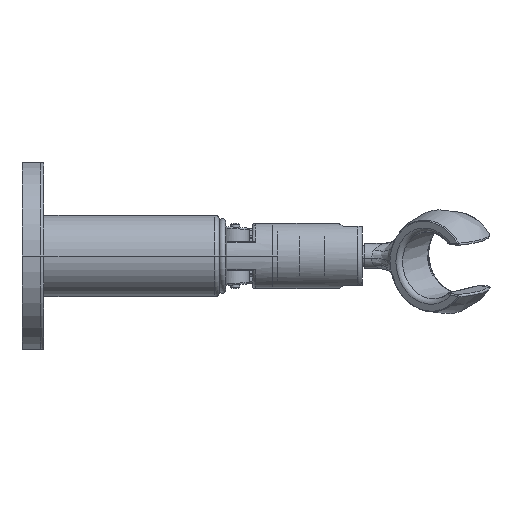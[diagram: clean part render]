
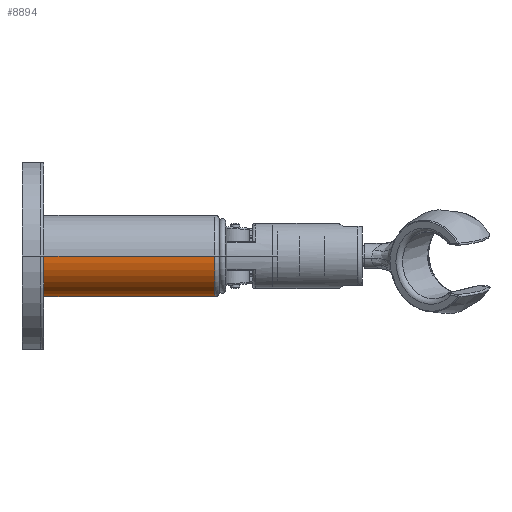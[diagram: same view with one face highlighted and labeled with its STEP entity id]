
A CAD part, front view. The second image highlights one B-rep face of the part: STEP entity #8894.
In plain terms, the highlighted cylindrical face has radius 13 mm (diameter 26 mm), a partial arc.
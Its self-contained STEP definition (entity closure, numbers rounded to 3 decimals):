
#2583=CARTESIAN_POINT('',(-38.5,0.,0.));
#2584=DIRECTION('',(-1.,0.,0.));
#2585=DIRECTION('',(0.,1.,0.));
#2586=AXIS2_PLACEMENT_3D('',#2583,#2584,#2585);
#2588=CARTESIAN_POINT('',(16.,0.,0.));
#2589=DIRECTION('',(-1.,0.,0.));
#2590=DIRECTION('',(0.,1.,0.));
#2591=AXIS2_PLACEMENT_3D('',#2588,#2589,#2590);
#2593=CARTESIAN_POINT('',(9.,13.,0.));
#2594=CARTESIAN_POINT('',(9.,13.,-0.147));
#2595=CARTESIAN_POINT('',(8.993,12.995,
-0.441));
#2596=CARTESIAN_POINT('',(8.96,12.972,
-0.884));
#2597=CARTESIAN_POINT('',(8.905,12.935,-1.326));
#2598=CARTESIAN_POINT('',(8.828,12.882,-1.768));
#2599=CARTESIAN_POINT('',(8.728,12.813,-2.21));
#2600=CARTESIAN_POINT('',(8.605,12.73,-2.649));
#2601=CARTESIAN_POINT('',(8.458,12.631,-3.088));
#2602=CARTESIAN_POINT('',(8.285,12.516,-3.525));
#2603=CARTESIAN_POINT('',(8.087,12.385,-3.961));
#2604=CARTESIAN_POINT('',(7.861,12.239,-4.391));
#2605=CARTESIAN_POINT('',(7.609,12.078,-4.814));
#2606=CARTESIAN_POINT('',(7.329,11.904,-5.231));
#2607=CARTESIAN_POINT('',(7.021,11.717,-5.638));
#2608=CARTESIAN_POINT('',(6.686,11.518,-6.033));
#2609=CARTESIAN_POINT('',(6.322,11.311,-6.413));
#2610=CARTESIAN_POINT('',(5.935,11.099,-6.773));
#2611=CARTESIAN_POINT('',(5.527,10.886,-7.109));
#2612=CARTESIAN_POINT('',(5.103,10.677,-7.419));
#2613=CARTESIAN_POINT('',(4.667,10.475,-7.701));
#2614=CARTESIAN_POINT('',(4.224,10.285,-7.952));
#2615=CARTESIAN_POINT('',(3.779,10.111,-8.173));
#2616=CARTESIAN_POINT('',(3.337,9.954,-8.363));
#2617=CARTESIAN_POINT('',(2.899,9.816,-8.524));
#2618=CARTESIAN_POINT('',(2.468,9.697,-8.659));
#2619=CARTESIAN_POINT('',(2.045,9.598,-8.768));
#2620=CARTESIAN_POINT('',(1.627,9.518,-8.855));
#2621=CARTESIAN_POINT('',(1.215,9.456,-8.921));
#2622=CARTESIAN_POINT('',(0.807,9.413,
-8.967));
#2623=CARTESIAN_POINT('',(0.402,9.387,
-8.994));
#2624=CARTESIAN_POINT('',(0.134,9.381,-9.));
#2625=CARTESIAN_POINT('',(0.,9.381,-9.));
#2627=CARTESIAN_POINT('',(0.,9.381,-9.));
#2628=CARTESIAN_POINT('',(-0.134,9.381,-9.));
#2629=CARTESIAN_POINT('',(-0.402,9.387,
-8.994));
#2630=CARTESIAN_POINT('',(-0.807,9.413,
-8.967));
#2631=CARTESIAN_POINT('',(-1.215,9.456,
-8.921));
#2632=CARTESIAN_POINT('',(-1.626,9.518,
-8.855));
#2633=CARTESIAN_POINT('',(-2.044,9.598,
-8.768));
#2634=CARTESIAN_POINT('',(-2.468,9.697,
-8.659));
#2635=CARTESIAN_POINT('',(-2.899,9.816,
-8.524));
#2636=CARTESIAN_POINT('',(-3.337,9.954,
-8.363));
#2637=CARTESIAN_POINT('',(-3.779,10.111,
-8.173));
#2638=CARTESIAN_POINT('',(-4.224,10.285,
-7.952));
#2639=CARTESIAN_POINT('',(-4.667,10.475,
-7.701));
#2640=CARTESIAN_POINT('',(-5.103,10.677,
-7.419));
#2641=CARTESIAN_POINT('',(-5.527,10.886,
-7.109));
#2642=CARTESIAN_POINT('',(-5.935,11.099,
-6.773));
#2643=CARTESIAN_POINT('',(-6.322,11.311,
-6.413));
#2644=CARTESIAN_POINT('',(-6.686,11.518,
-6.033));
#2645=CARTESIAN_POINT('',(-7.021,11.717,
-5.638));
#2646=CARTESIAN_POINT('',(-7.329,11.904,
-5.231));
#2647=CARTESIAN_POINT('',(-7.609,12.078,
-4.815));
#2648=CARTESIAN_POINT('',(-7.861,12.239,
-4.391));
#2649=CARTESIAN_POINT('',(-8.086,12.385,
-3.961));
#2650=CARTESIAN_POINT('',(-8.285,12.516,
-3.525));
#2651=CARTESIAN_POINT('',(-8.458,12.631,
-3.088));
#2652=CARTESIAN_POINT('',(-8.605,12.73,
-2.649));
#2653=CARTESIAN_POINT('',(-8.728,12.813,
-2.21));
#2654=CARTESIAN_POINT('',(-8.828,12.882,
-1.768));
#2655=CARTESIAN_POINT('',(-8.905,12.935,
-1.326));
#2656=CARTESIAN_POINT('',(-8.96,12.972,
-0.884));
#2657=CARTESIAN_POINT('',(-8.993,12.995,
-0.442));
#2658=CARTESIAN_POINT('',(-9.,13.,-0.147));
#2659=CARTESIAN_POINT('',(-9.,13.,0.));
#2714=DIRECTION('',(-1.,0.,0.));
#2715=VECTOR('',#2714,29.5);
#2716=CARTESIAN_POINT('',(-9.,13.,0.));
#2717=LINE('',#2716,#2715);
#2786=DIRECTION('',(-1.,0.,0.));
#2787=VECTOR('',#2786,7.);
#2788=CARTESIAN_POINT('',(16.,13.,0.));
#2789=LINE('',#2788,#2787);
#2795=DIRECTION('',(-1.,0.,0.));
#2796=VECTOR('',#2795,54.5);
#2797=CARTESIAN_POINT('',(16.,-13.,0.));
#2798=LINE('',#2797,#2796);
#4971=CARTESIAN_POINT('',(16.,13.,0.));
#4972=CARTESIAN_POINT('',(16.,-13.,0.));
#4973=VERTEX_POINT('',#4971);
#4974=VERTEX_POINT('',#4972);
#4987=VERTEX_POINT('',#2627);
#4988=VERTEX_POINT('',#2659);
#4989=VERTEX_POINT('',#2593);
#5535=CARTESIAN_POINT('',(-38.5,13.,0.));
#5536=CARTESIAN_POINT('',(-38.5,-13.,0.));
#5537=VERTEX_POINT('',#5535);
#5538=VERTEX_POINT('',#5536);
#8875=CARTESIAN_POINT('',(20.4,0.,0.));
#8876=DIRECTION('',(-1.,0.,0.));
#8877=DIRECTION('',(0.,1.,0.));
#8878=AXIS2_PLACEMENT_3D('',#8875,#8876,#8877);
#8879=CYLINDRICAL_SURFACE('',#8878,13.);
#8881=ORIENTED_EDGE('',*,*,#8880,.T.);
#8883=ORIENTED_EDGE('',*,*,#8882,.F.);
#8885=ORIENTED_EDGE('',*,*,#8884,.F.);
#8887=ORIENTED_EDGE('',*,*,#8886,.T.);
#8888=ORIENTED_EDGE('',*,*,#8867,.T.);
#8889=ORIENTED_EDGE('',*,*,#8853,.T.);
#8891=ORIENTED_EDGE('',*,*,#8890,.T.);
#8892=EDGE_LOOP('',(#8881,#8883,#8885,#8887,#8888,#8889,#8891));
#8893=FACE_OUTER_BOUND('',#8892,.F.);
#2587=CIRCLE('',#2586,13.);
#2592=CIRCLE('',#2591,13.);
#2626=B_SPLINE_CURVE_WITH_KNOTS('',3,(#2593,#2594,#2595,#2596,#2597,#2598,#2599,
#2600,#2601,#2602,#2603,#2604,#2605,#2606,#2607,#2608,#2609,#2610,#2611,#2612,
#2613,#2614,#2615,#2616,#2617,#2618,#2619,#2620,#2621,#2622,#2623,#2624,#2625),
.UNSPECIFIED.,.F.,.F.,(4,1,1,1,1,1,1,1,1,1,1,1,1,1,1,1,1,1,1,1,1,1,1,1,1,1,1,1,
1,1,4),(0.,0.033,0.067,0.1,0.133,
0.167,0.2,0.233,0.267,0.3,
0.333,0.367,0.4,0.433,0.467,
0.5,0.533,0.567,0.6,0.633,
0.667,0.7,0.733,0.767,0.8,
0.833,0.867,0.9,0.933,0.967,
1.),.UNSPECIFIED.);
#2660=B_SPLINE_CURVE_WITH_KNOTS('',3,(#2627,#2628,#2629,#2630,#2631,#2632,#2633,
#2634,#2635,#2636,#2637,#2638,#2639,#2640,#2641,#2642,#2643,#2644,#2645,#2646,
#2647,#2648,#2649,#2650,#2651,#2652,#2653,#2654,#2655,#2656,#2657,#2658,#2659),
.UNSPECIFIED.,.F.,.F.,(4,1,1,1,1,1,1,1,1,1,1,1,1,1,1,1,1,1,1,1,1,1,1,1,1,1,1,1,
1,1,4),(0.,0.033,0.067,0.1,0.133,
0.167,0.2,0.233,0.267,0.3,
0.333,0.367,0.4,0.433,0.467,
0.5,0.533,0.567,0.6,0.633,
0.667,0.7,0.733,0.767,0.8,
0.833,0.867,0.9,0.933,0.967,
1.),.UNSPECIFIED.);
#8853=EDGE_CURVE('',#4987,#4988,#2660,.T.);
#8867=EDGE_CURVE('',#4989,#4987,#2626,.T.);
#8880=EDGE_CURVE('',#5537,#5538,#2587,.T.);
#8882=EDGE_CURVE('',#4974,#5538,#2798,.T.);
#8884=EDGE_CURVE('',#4973,#4974,#2592,.T.);
#8886=EDGE_CURVE('',#4973,#4989,#2789,.T.);
#8890=EDGE_CURVE('',#4988,#5537,#2717,.T.);
#8894=ADVANCED_FACE('',(#8893),#8879,.T.);
